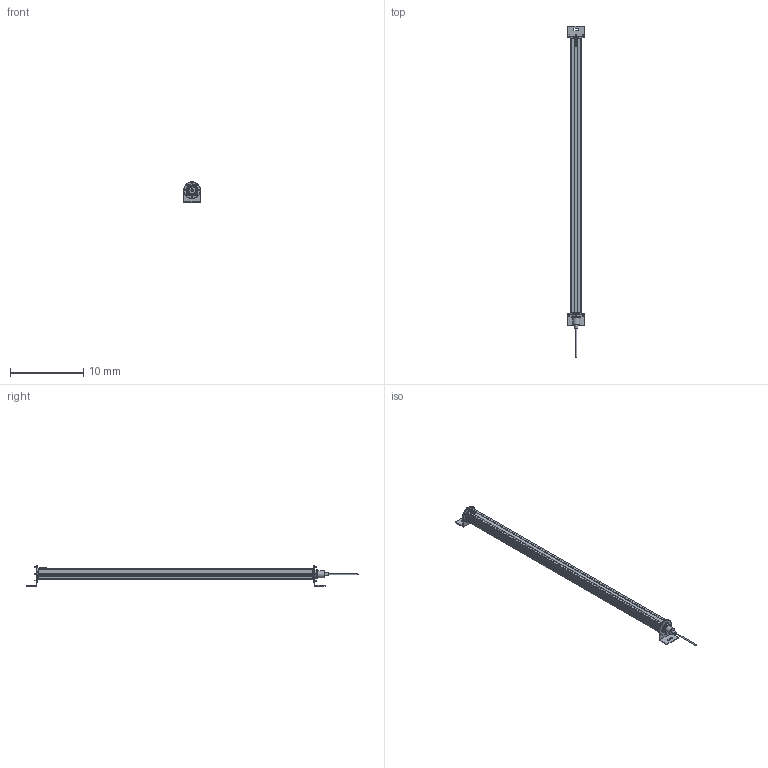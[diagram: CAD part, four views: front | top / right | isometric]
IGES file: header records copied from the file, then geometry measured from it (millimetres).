
Start section:  Autodesk DirectConnect version 7.0.27.0 ---- IGES version 5.3
Global section: file name: C:\ACADFILES\MG_PYLONS\CUSTOMER_FILES\MG-36-PYLON_3D_SMB.iges; native system: Autodesk DirectConnect 7.0.27.0; preprocessor: 7.0.27.0; author: ENGINEERMAIN; organization: Unknown; date: 20150810.142327; units: millimetre
Bounding box: 2.26 x 45.44 x 2.75 mm (x, y, z)
Surface area: 620.2 mm2 (no closed solid volume)
Topology: 0 solids, 0 shells, 771 faces, 3970 edges, 3969 vertices
Faces by surface type: bspline 771
